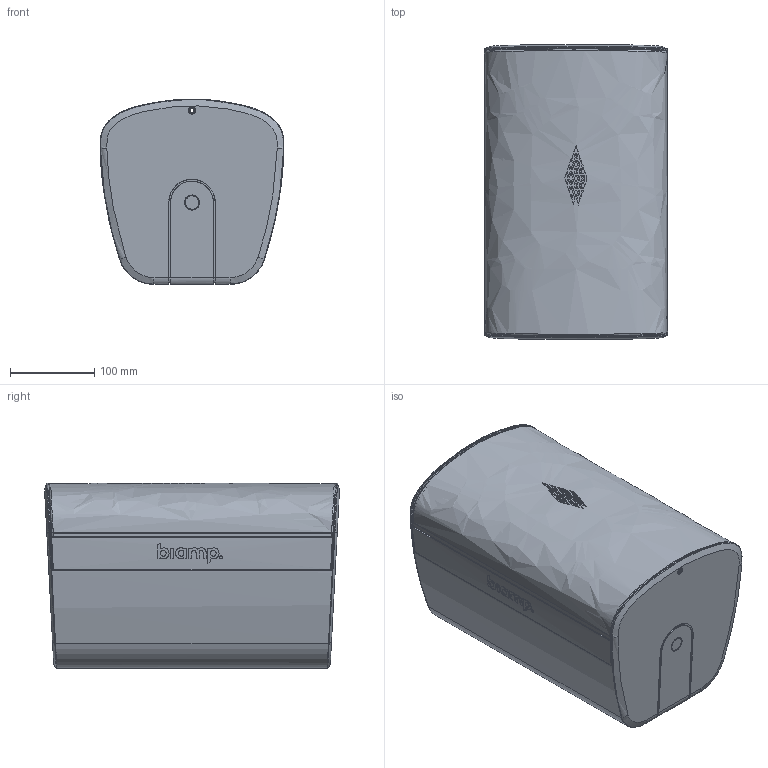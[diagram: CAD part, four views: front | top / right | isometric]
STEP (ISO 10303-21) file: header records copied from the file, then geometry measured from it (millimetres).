
FILE_DESCRIPTION (( 'STEP AP203' ), '1' );
FILE_NAME ('DESONO EX-S6.90A.step', '2021-05-27T21:55:04', ( '' ), ( '' ), 'SwSTEP 2.0', 'SolidWorks 2021', '' );
FILE_SCHEMA (( 'CONFIG_CONTROL_DESIGN' ));
Length unit declared in the file: millimetre
Products named in the file (1): DESONO EX-S6.90A
Bounding box: 217.8 x 349.15 x 220.14 mm (x, y, z)
Surface area: 482462 mm2 (no closed solid volume)
Topology: 0 solids, 319 shells, 992 faces, 5681 edges, 4957 vertices
Faces by surface type: plane 532, bspline 304, cylinder 101, cone 43, torus 10, sphere 2
Entity records: 86074 total; most frequent: CARTESIAN_POINT 49934, ORIENTED_EDGE 6851, EDGE_CURVE 5679, VERTEX_POINT 4957, DIRECTION 4730, LINE 2760, VECTOR 2760, B_SPLINE_CURVE_WITH_KNOTS 2471
